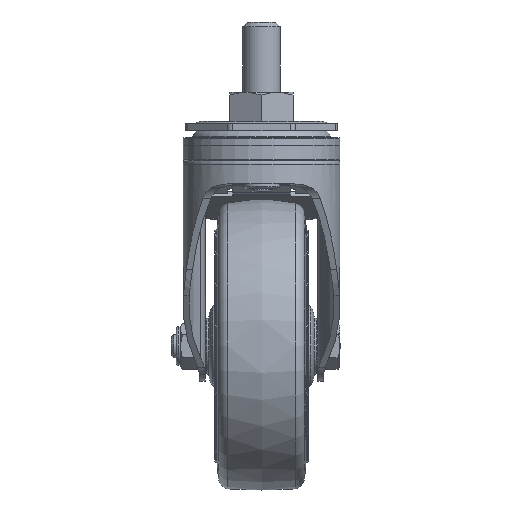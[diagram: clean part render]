
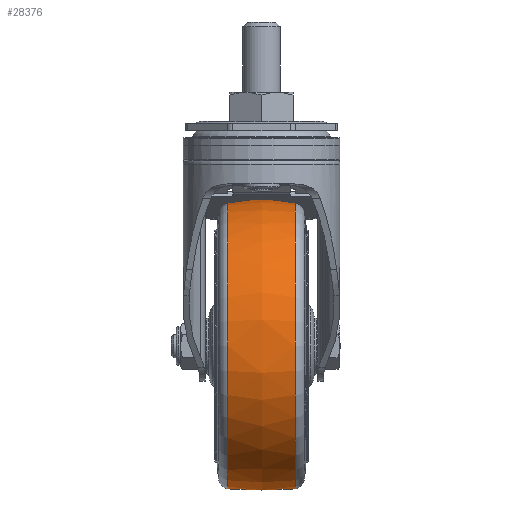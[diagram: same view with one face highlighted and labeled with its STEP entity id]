
A CAD part, left-side view. The second image highlights one B-rep face of the part: STEP entity #28376.
In plain terms, the highlighted free-form (B-spline) face has degree [2, 2] with [3, 9] control points.
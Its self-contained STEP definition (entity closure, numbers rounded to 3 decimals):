
#144=(
BOUNDED_SURFACE()
B_SPLINE_SURFACE(2,2,((#44693,#44694,#44695,#44696,#44697,#44698,#44699,
#44700,#44701),(#44702,#44703,#44704,#44705,#44706,#44707,#44708,#44709,
#44710),(#44711,#44712,#44713,#44714,#44715,#44716,#44717,#44718,#44719)),
 .UNSPECIFIED.,.F.,.T.,.F.)
B_SPLINE_SURFACE_WITH_KNOTS((3,3),(3,2,2,2,3),(-0.208,0.208),
(-3.142,-1.571,0.,1.571,3.142),
 .UNSPECIFIED.)
GEOMETRIC_REPRESENTATION_ITEM()
RATIONAL_B_SPLINE_SURFACE(((1.,0.707,1.,0.707,1.,
0.707,1.,0.707,1.),(0.978,0.692,
0.978,0.692,0.978,0.692,
0.978,0.692,0.978),(1.,0.707,
1.,0.707,1.,0.707,1.,0.707,1.)))
REPRESENTATION_ITEM('')
SURFACE()
);
#3794=FACE_OUTER_BOUND('',#5513,.T.);
#5513=EDGE_LOOP('',(#21281,#21282,#21283,#21284));
#11064=CIRCLE('',#29918,60.992);
#11065=CIRCLE('',#29919,70.);
#11066=CIRCLE('',#29920,60.992);
#12473=VERTEX_POINT('',#44720);
#12474=VERTEX_POINT('',#44722);
#15718=EDGE_CURVE('',#12473,#12473,#11064,.T.);
#15719=EDGE_CURVE('',#12473,#12474,#11065,.T.);
#15720=EDGE_CURVE('',#12474,#12474,#11066,.T.);
#21281=ORIENTED_EDGE('',*,*,#15718,.F.);
#21282=ORIENTED_EDGE('',*,*,#15719,.T.);
#21283=ORIENTED_EDGE('',*,*,#15720,.T.);
#21284=ORIENTED_EDGE('',*,*,#15719,.F.);
#28376=ADVANCED_FACE('',(#3794),#144,.F.);
#29918=AXIS2_PLACEMENT_3D('',#44721,#32419,#32420);
#29919=AXIS2_PLACEMENT_3D('',#44723,#32421,#32422);
#29920=AXIS2_PLACEMENT_3D('',#44724,#32423,#32424);
#32419=DIRECTION('center_axis',(0.,-1.,0.));
#32420=DIRECTION('ref_axis',(0.,0.,
-1.));
#32421=DIRECTION('center_axis',(-1.,0.,0.));
#32422=DIRECTION('ref_axis',(0.,0.,
1.));
#32423=DIRECTION('center_axis',(0.,-1.,0.));
#32424=DIRECTION('ref_axis',(0.,0.,
-1.));
#44693=CARTESIAN_POINT('Ctrl Pts',(32.,14.451,-35.308));
#44694=CARTESIAN_POINT('Ctrl Pts',(-28.992,14.451,-35.308));
#44695=CARTESIAN_POINT('Ctrl Pts',(-28.992,14.451,-96.3));
#44696=CARTESIAN_POINT('Ctrl Pts',(-28.992,14.451,-157.292));
#44697=CARTESIAN_POINT('Ctrl Pts',(32.,14.451,-157.292));
#44698=CARTESIAN_POINT('Ctrl Pts',(92.992,14.451,-157.292));
#44699=CARTESIAN_POINT('Ctrl Pts',(92.992,14.451,-96.3));
#44700=CARTESIAN_POINT('Ctrl Pts',(92.992,14.451,-35.308));
#44701=CARTESIAN_POINT('Ctrl Pts',(32.,14.451,-35.308));
#44702=CARTESIAN_POINT('Ctrl Pts',(32.,0.,
-32.259));
#44703=CARTESIAN_POINT('Ctrl Pts',(-32.041,0.,
-32.259));
#44704=CARTESIAN_POINT('Ctrl Pts',(-32.041,0.,
-96.3));
#44705=CARTESIAN_POINT('Ctrl Pts',(-32.041,0.,
-160.341));
#44706=CARTESIAN_POINT('Ctrl Pts',(32.,0.,
-160.341));
#44707=CARTESIAN_POINT('Ctrl Pts',(96.041,0.,
-160.341));
#44708=CARTESIAN_POINT('Ctrl Pts',(96.041,0.,
-96.3));
#44709=CARTESIAN_POINT('Ctrl Pts',(96.041,0.,
-32.259));
#44710=CARTESIAN_POINT('Ctrl Pts',(32.,0.,
-32.259));
#44711=CARTESIAN_POINT('Ctrl Pts',(32.,-14.451,-35.308));
#44712=CARTESIAN_POINT('Ctrl Pts',(-28.992,-14.451,
-35.308));
#44713=CARTESIAN_POINT('Ctrl Pts',(-28.992,-14.451,
-96.3));
#44714=CARTESIAN_POINT('Ctrl Pts',(-28.992,-14.451,
-157.292));
#44715=CARTESIAN_POINT('Ctrl Pts',(32.,-14.451,-157.292));
#44716=CARTESIAN_POINT('Ctrl Pts',(92.992,-14.451,-157.292));
#44717=CARTESIAN_POINT('Ctrl Pts',(92.992,-14.451,-96.3));
#44718=CARTESIAN_POINT('Ctrl Pts',(92.992,-14.451,-35.308));
#44719=CARTESIAN_POINT('Ctrl Pts',(32.,-14.451,-35.308));
#44720=CARTESIAN_POINT('',(32.,-14.451,-35.308));
#44721=CARTESIAN_POINT('Origin',(32.,-14.451,-96.3));
#44722=CARTESIAN_POINT('',(32.,14.451,-35.308));
#44723=CARTESIAN_POINT('Origin',(32.,0.,-103.8));
#44724=CARTESIAN_POINT('Origin',(32.,14.451,-96.3));
